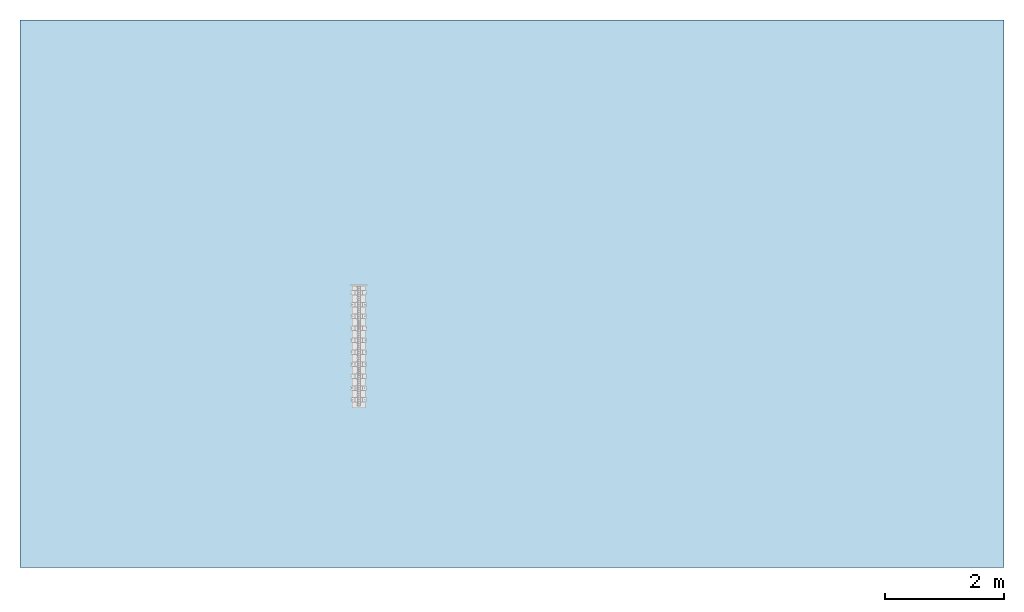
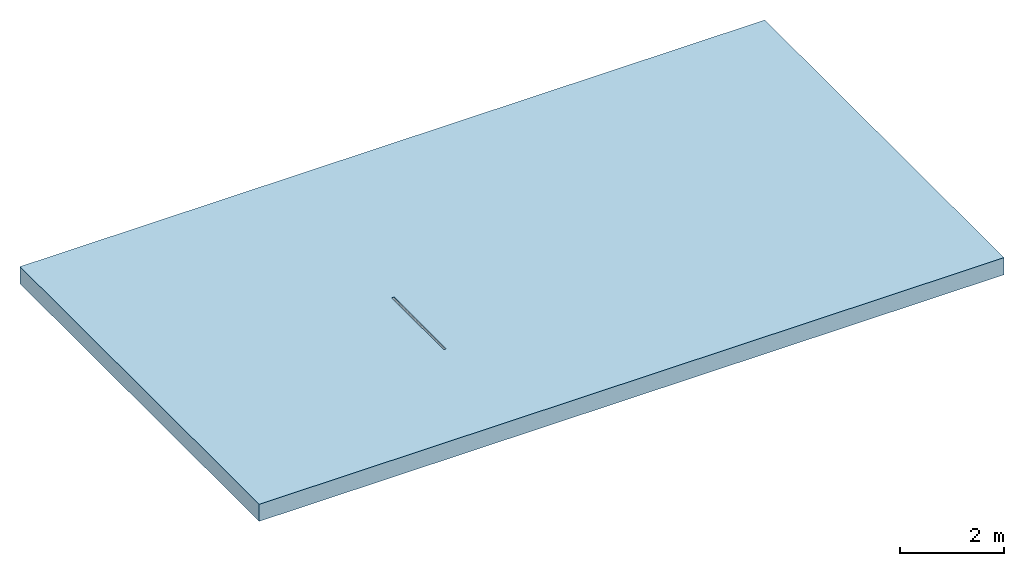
# One storey, incomplete: 1 slab, 1 opening.
"""IFC2X3 building model written with IfcOpenShell, lengths in millimetres."""

from ifc_helpers import new_model, entity, si_unit, converted_unit, direction, frame, frame_2d, origin, place, context, subcontext, project, spatial, polyline, rectangle, outline, extrude, material, layer, layer_set, layer_usage, element, save


model = new_model("IFC2X3")

# Units and contexts
model_context = context("Model", 3, precision=1e-06, world=origin(), true_north=direction((2.0, 6.12303176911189e-17, 1.0)))
context_of_model = context(None, 3, precision=1e-06, world=origin(), true_north=direction((2.0, 6.12303176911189e-17, 1.0)))
body_context = subcontext(model_context, "Body", "Model", "MODEL_VIEW")
ifc_project = project(units=[si_unit("LENGTHUNIT", "METRE", prefix="MILLI"), si_unit("AREAUNIT", "SQUARE_METRE", prefix="MILLI"), si_unit("VOLUMEUNIT", "CUBIC_METRE", prefix="MILLI"), converted_unit("PLANEANGLEUNIT", "DEGREE", entity("IfcRatioMeasure", 0.0174532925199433), si_unit("PLANEANGLEUNIT", "RADIAN"), dimensions=[0, 0, 0, 0, 0, 0, 0]), si_unit("TIMEUNIT", "SECOND")], contexts=[model_context, context_of_model])

# Site, building, storey
site_placement = place(None, origin())
site = spatial("IfcSite", under=ifc_project, at=site_placement, Name="Default", CompositionType="ELEMENT")
building_placement = place(site_placement, origin())
building = spatial("IfcBuilding", under=site, at=building_placement, CompositionType="ELEMENT")
storey_placement = place(building_placement, origin())
storey = spatial("IfcBuildingStorey", under=building, at=storey_placement, Name="Level 1", CompositionType="ELEMENT", Elevation=0.0)

# Slab, opening
ifc_material = material(Name="Plant")
ifc_layer = layer(ifc_material, 400.0)
ifc_layer_set = layer_set([ifc_layer], Name="Floor:Generic Floor - 400mm")
ifc_layer_usage = layer_usage(ifc_layer_set, "AXIS3", "POSITIVE", 0.0)
slab_placement = place(storey_placement, frame((-17967.0691536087, -3738.31688706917, -400.0)))
slab = element("IfcSlab", 1, at=slab_placement, inside=storey, material=ifc_layer_usage, Name="Floor:Generic Floor - 400mm", ObjectType="Floor:Generic Floor - 400mm", PredefinedType="FLOOR", context=body_context, shape_type="SweptSolid", body=[
    extrude(rectangle(XDim=9180.0, YDim=16500.0, at=frame_2d((0.0, 0.0), x_axis=(0.0, -1.0))), frame((8250.0, 4590.0, 400.0), z_axis=(0.0, 0.0, -1.0), x_axis=(-1.0, 0.0, 0.0)), (0.0, 0.0, 1.0), 400.0),
])
opening_placement = place(slab_placement, origin())
element("IfcOpeningElement", 2, at=opening_placement, cuts=slab, ObjectType="Opening", context=body_context, shape_type="SweptSolid", body=[
    extrude(outline(polyline([(-135.0, 27.5000000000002), (-135.0, -27.5000000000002), (-105.0, -27.5000000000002), (-105.0, -152.499999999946), (345.0, -152.499999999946), (345.0, 152.499999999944), (-105.0, 152.499999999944), (-105.0, 27.5000000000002), (-135.0, 27.5000000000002)])), frame((5680.64834349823, 2709.71652765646, 265.0), z_axis=(0.0, -1.0, 0.0), x_axis=(0.0, 0.0, -1.0)), (0.0, 0.0, -1.0), 2000.0),
])

save(model, "model.ifc")
